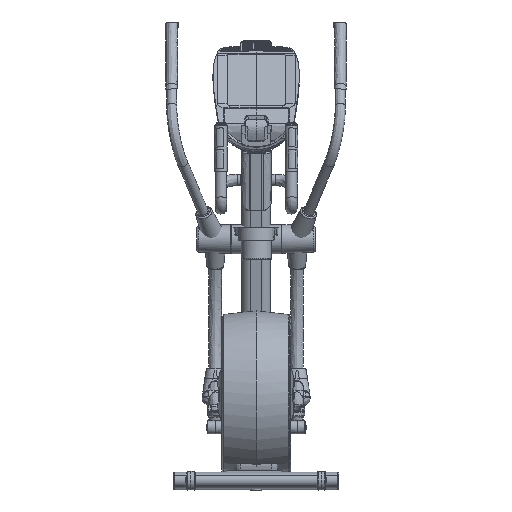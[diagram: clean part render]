
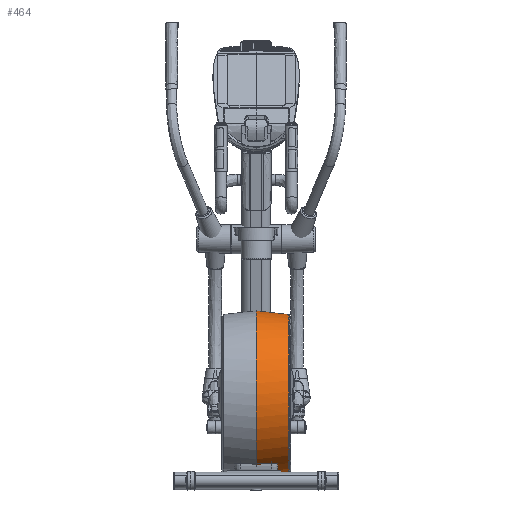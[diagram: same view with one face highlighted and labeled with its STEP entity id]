
A CAD part, front view. The second image highlights one B-rep face of the part: STEP entity #464.
In plain terms, the highlighted free-form (B-spline) face has degree [2, 1] with [7, 2] control points.
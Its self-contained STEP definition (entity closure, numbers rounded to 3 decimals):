
#399=CARTESIAN_POINT('',(115.369,-601.35,618.052));
#400=CARTESIAN_POINT('',(-0.07,-601.35,630.677));
#401=CARTESIAN_POINT('',(115.369,-107.483,618.052));
#402=CARTESIAN_POINT('',(-0.07,-85.617,630.677));
#403=CARTESIAN_POINT('',(115.369,-354.417,190.351));
#404=CARTESIAN_POINT('',(-0.07,-343.483,184.039));
#405=CARTESIAN_POINT('',(115.369,-601.35,-237.351));
#406=CARTESIAN_POINT('',(-0.07,-601.35,-262.6));
#407=CARTESIAN_POINT('',(115.369,-848.284,190.351));
#408=CARTESIAN_POINT('',(-0.07,-859.217,184.039));
#409=CARTESIAN_POINT('',(115.369,-1095.217,618.052));
#410=CARTESIAN_POINT('',(-0.07,-1117.083,630.677));
#411=CARTESIAN_POINT('',(115.369,-601.35,618.052));
#412=CARTESIAN_POINT('',(-0.07,-601.35,630.677));
#413=(BOUNDED_SURFACE()
B_SPLINE_SURFACE(2,1,((#399,#400),(#401,#402),(#403,#404),(#405,#406),(#407,#408),(#409,#410),(#411,#412)),.UNSPECIFIED.,.T.,.F.,.U.)
B_SPLINE_SURFACE_WITH_KNOTS((3,2,2,3),(2,2),(0.,2.094,4.189,6.283),(-0.115,0.),.UNSPECIFIED.)
GEOMETRIC_REPRESENTATION_ITEM()
RATIONAL_B_SPLINE_SURFACE(((1.,1.),(0.5,0.5),(1.,1.),(0.5,0.5),(1.,1.),(0.5,0.5),(1.,1.)))
REPRESENTATION_ITEM('')
SURFACE()
);
#414=CARTESIAN_POINT('',(-0.07,-601.35,630.677));
#415=VERTEX_POINT('',#414);
#416=CARTESIAN_POINT('',(115.369,-601.35,618.052));
#417=VERTEX_POINT('',#416);
#418=CARTESIAN_POINT('',(-0.07,-601.35,630.677));
#419=CARTESIAN_POINT('',(115.369,-601.35,618.052));
#420=B_SPLINE_CURVE_WITH_KNOTS('',1,(#418,#419),.UNSPECIFIED.,.F.,.F.,(2,2),(-0.115,-0.),.UNSPECIFIED.);
#421=EDGE_CURVE('',#415,#417,#420,.T.);
#422=ORIENTED_EDGE('',*,*,#421,.T.);
#423=CARTESIAN_POINT('',(115.369,-316.216,332.918));
#424=VERTEX_POINT('',#423);
#425=CARTESIAN_POINT('',(115.369,-601.35,618.052));
#426=CARTESIAN_POINT('',(115.369,-316.216,618.052));
#427=CARTESIAN_POINT('',(115.369,-316.216,332.918));
#428=CARTESIAN_POINT('',(115.369,-316.216,47.784));
#429=CARTESIAN_POINT('',(115.369,-601.35,47.784));
#430=CARTESIAN_POINT('',(115.369,-886.484,47.784));
#431=CARTESIAN_POINT('',(115.369,-886.484,332.918));
#432=CARTESIAN_POINT('',(115.369,-886.484,618.052));
#433=CARTESIAN_POINT('',(115.369,-601.35,618.052));
#434=(BOUNDED_CURVE()
B_SPLINE_CURVE(2,(#425,#426,#427,#428,#429,#430,#431,#432,#433),.UNSPECIFIED.,.T.,.F.)
B_SPLINE_CURVE_WITH_KNOTS((3,2,2,2,3),(0.,1.571,3.142,4.712,6.283),.UNSPECIFIED.)
CURVE()
GEOMETRIC_REPRESENTATION_ITEM()
RATIONAL_B_SPLINE_CURVE((1.,0.707,1.,0.707,1.,0.707,1.,0.707,1.))
REPRESENTATION_ITEM(''));
#435=EDGE_CURVE('',#417,#424,#434,.T.);
#436=ORIENTED_EDGE('',*,*,#435,.T.);
#437=CARTESIAN_POINT('',(115.369,-601.35,618.052));
#438=CARTESIAN_POINT('',(115.369,-316.216,618.052));
#439=CARTESIAN_POINT('',(115.369,-316.216,332.918));
#440=CARTESIAN_POINT('',(115.369,-316.216,47.784));
#441=CARTESIAN_POINT('',(115.369,-601.35,47.784));
#442=CARTESIAN_POINT('',(115.369,-886.484,47.784));
#443=CARTESIAN_POINT('',(115.369,-886.484,332.918));
#444=CARTESIAN_POINT('',(115.369,-886.484,618.052));
#445=CARTESIAN_POINT('',(115.369,-601.35,618.052));
#446=(BOUNDED_CURVE()
B_SPLINE_CURVE(2,(#437,#438,#439,#440,#441,#442,#443,#444,#445),.UNSPECIFIED.,.T.,.F.)
B_SPLINE_CURVE_WITH_KNOTS((3,2,2,2,3),(0.,1.571,3.142,4.712,6.283),.UNSPECIFIED.)
CURVE()
GEOMETRIC_REPRESENTATION_ITEM()
RATIONAL_B_SPLINE_CURVE((1.,0.707,1.,0.707,1.,0.707,1.,0.707,1.))
REPRESENTATION_ITEM(''));
#447=EDGE_CURVE('',#424,#417,#446,.T.);
#448=ORIENTED_EDGE('',*,*,#447,.T.);
#449=ORIENTED_EDGE('',*,*,#421,.F.);
#450=CARTESIAN_POINT('',(-0.07,-601.35,630.677));
#451=CARTESIAN_POINT('',(-0.07,-303.591,630.677));
#452=CARTESIAN_POINT('',(-0.07,-303.591,332.918));
#453=CARTESIAN_POINT('',(-0.07,-303.591,35.159));
#454=CARTESIAN_POINT('',(-0.07,-601.35,35.159));
#455=CARTESIAN_POINT('',(-0.07,-899.109,35.159));
#456=CARTESIAN_POINT('',(-0.07,-899.109,332.918));
#457=CARTESIAN_POINT('',(-0.07,-899.109,630.677));
#458=CARTESIAN_POINT('',(-0.07,-601.35,630.677));
#459=(BOUNDED_CURVE()
B_SPLINE_CURVE(2,(#450,#451,#452,#453,#454,#455,#456,#457,#458),.UNSPECIFIED.,.T.,.F.)
B_SPLINE_CURVE_WITH_KNOTS((3,2,2,2,3),(0.,1.571,3.142,4.712,6.283),.UNSPECIFIED.)
CURVE()
GEOMETRIC_REPRESENTATION_ITEM()
RATIONAL_B_SPLINE_CURVE((1.,0.707,1.,0.707,1.,0.707,1.,0.707,1.))
REPRESENTATION_ITEM(''));
#460=EDGE_CURVE('',#415,#415,#459,.T.);
#461=ORIENTED_EDGE('',*,*,#460,.F.);
#462=EDGE_LOOP('',(#422,#436,#448,#449,#461));
#463=FACE_BOUND('',#462,.T.);
#464=ADVANCED_FACE('',(#463),#413,.T.);
